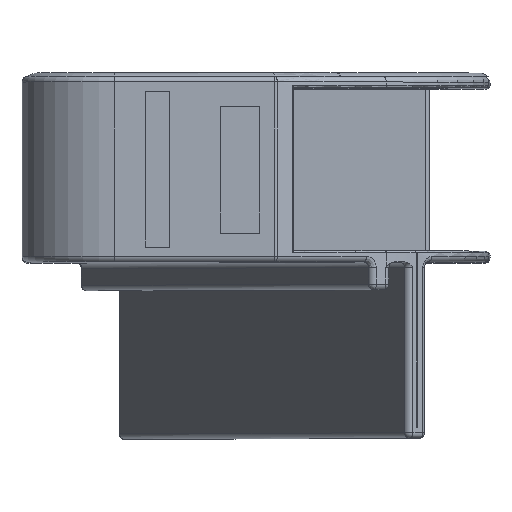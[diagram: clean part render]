
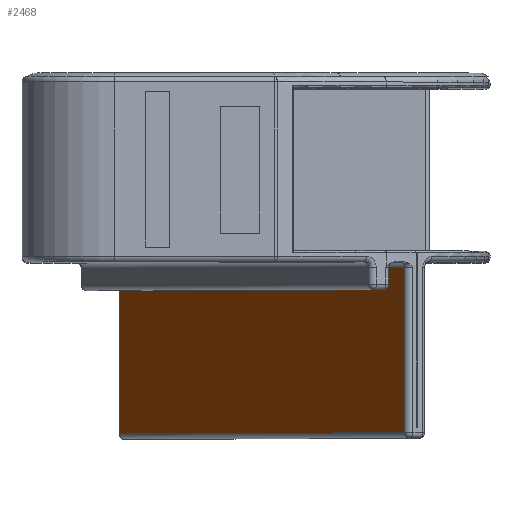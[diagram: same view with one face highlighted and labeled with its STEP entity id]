
A CAD part, top view. The second image highlights one B-rep face of the part: STEP entity #2468.
In plain terms, the highlighted planar face has unit normal (-0.906, 0, 0.423).
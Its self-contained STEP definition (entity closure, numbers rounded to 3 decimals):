
#525=ORIENTED_EDGE('',*,*,#1246,.T.);
#526=ORIENTED_EDGE('',*,*,#1247,.T.);
#527=ORIENTED_EDGE('',*,*,#1248,.T.);
#528=ORIENTED_EDGE('',*,*,#1249,.T.);
#1246=EDGE_CURVE('',#1601,#1602,#1798,.F.);
#1247=EDGE_CURVE('',#1602,#1603,#1799,.F.);
#1248=EDGE_CURVE('',#1603,#1604,#1800,.T.);
#1249=EDGE_CURVE('',#1604,#1601,#1801,.T.);
#1601=VERTEX_POINT('',#4154);
#1602=VERTEX_POINT('',#4155);
#1603=VERTEX_POINT('',#4157);
#1604=VERTEX_POINT('',#4159);
#1798=LINE('',#4153,#1984);
#1799=LINE('',#4156,#1985);
#1800=LINE('',#4158,#1986);
#1801=LINE('',#4160,#1987);
#1984=VECTOR('',#3195,1000.);
#1985=VECTOR('',#3196,1000.);
#1986=VECTOR('',#3197,1000.);
#1987=VECTOR('',#3198,1000.);
#2082=EDGE_LOOP('',(#525,#526,#527,#528));
#2252=FACE_BOUND('',#2082,.T.);
#2411=PLANE('',#2682);
#2468=ADVANCED_FACE('',(#2252),#2411,.F.);
#2682=AXIS2_PLACEMENT_3D('',#4152,#3193,#3194);
#3193=DIRECTION('',(0.906,0.,-0.423));
#3194=DIRECTION('',(0.,1.,0.));
#3195=DIRECTION('',(0.423,0.,0.906));
#3196=DIRECTION('',(0.,1.,0.));
#3197=DIRECTION('',(0.423,0.,0.906));
#3198=DIRECTION('',(0.,1.,0.));
#4152=CARTESIAN_POINT('',(-23.595,10.795,-94.961));
#4153=CARTESIAN_POINT('',(-23.595,13.208,-94.961));
#4154=CARTESIAN_POINT('',(15.71,13.208,-10.67));
#4155=CARTESIAN_POINT('',(-23.273,13.208,-94.271));
#4156=CARTESIAN_POINT('',(-23.273,-9.398,-94.271));
#4157=CARTESIAN_POINT('',(-23.273,-9.398,-94.271));
#4158=CARTESIAN_POINT('',(-23.595,-9.398,-94.961));
#4159=CARTESIAN_POINT('',(15.71,-9.398,-10.67));
#4160=CARTESIAN_POINT('',(15.71,10.795,-10.67));
